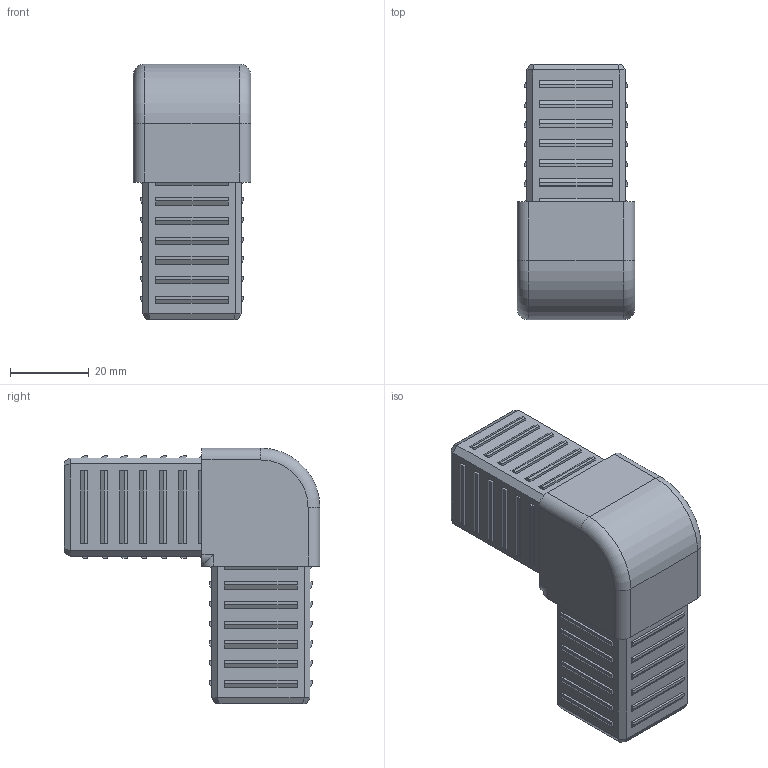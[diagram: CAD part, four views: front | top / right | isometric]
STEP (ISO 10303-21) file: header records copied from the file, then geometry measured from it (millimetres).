
FILE_DESCRIPTION (( 'STEP AP203' ), '1' );
FILE_NAME ('013.030.106.STEP', '2020-09-28T06:30:52', ( '' ), ( '' ), 'SwSTEP 2.0', 'SolidWorks 2018', '' );
FILE_SCHEMA (( 'CONFIG_CONTROL_DESIGN' ));
Length unit declared in the file: millimetre
Products named in the file (1): 013.030.106
Bounding box: 30 x 65 x 65 mm (x, y, z)
Volume: 31925.9 mm3; surface area: 25115.5 mm2
Topology: 1 solids, 1 shells, 359 faces, 901 edges, 592 vertices
Faces by surface type: plane 336, cylinder 19, torus 4
Entity records: 10592 total; most frequent: CARTESIAN_POINT 1875, ORIENTED_EDGE 1802, DIRECTION 1649, EDGE_CURVE 901, LINE 861, VECTOR 861, VERTEX_POINT 592, EDGE_LOOP 411
